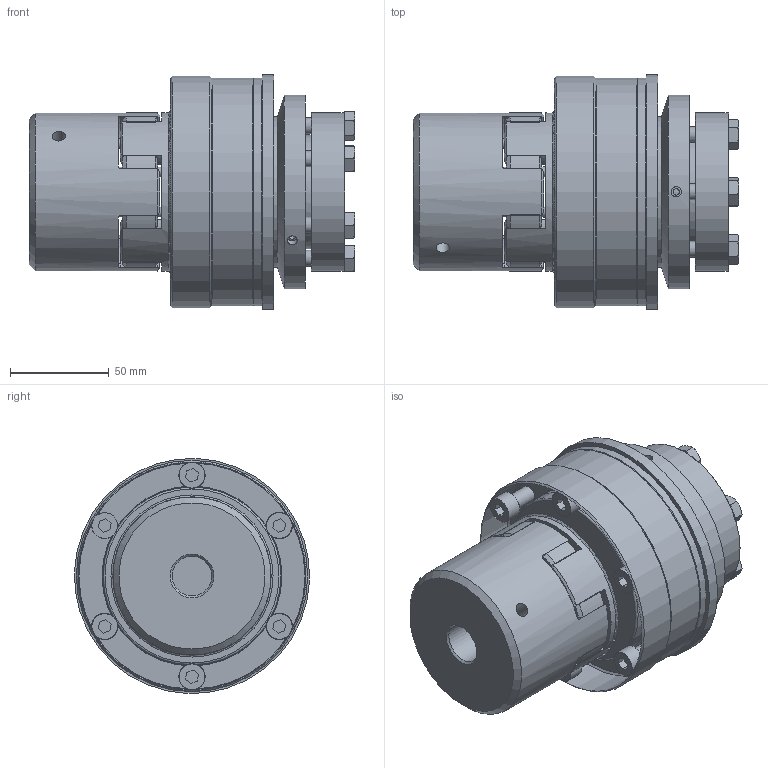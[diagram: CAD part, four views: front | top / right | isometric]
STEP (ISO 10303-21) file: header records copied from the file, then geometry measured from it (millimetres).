
FILE_DESCRIPTION( ( 'Unknown' ), '1' );
FILE_NAME( 'C:/Users/skarpstein/Desktop/Korrigierte 3D Modelle/KBK-E-PA/KBK EPA-38.stp', 'Unknown', ( 'Unknown' ), ( 'Unknown' ), 'PSStep 16.0.42', 'Unknown', ' ' );
FILE_SCHEMA( ( 'AUTOMOTIVE_DESIGN { 1 0 10303 214 1 1 1 1 }' ) );
Length unit declared in the file: millimetre
Products named in the file (30): Zylinderschraube DIN 912_2; ball_bearing_-_6011_0_02; ball_bearing_-_6011_0_03; ball_bearing_-_6011_0_01; Assem2_1; din_en_24017_m8x30; KBK L-A-300 Grundkörper; Druckring 300; Flansch 300; Druckring L-A-300; Elastomerflansch 38; Zahnkranz_38_Standard; Assem3_0; a_55; Stellring 300; Assem1; KBE 1 - 38_Nabe
Assembly tree (39 placements, depth 4):
  Assem1
    KBE 1 - 38_Nabe
    KBK L-A-300 Grundkörper
      KBK L-A-300 Grundkörper
    Druckring L-A-300
      Druckring L-A-300
    Flansch 300
      Flansch 300
    Stellring 300
      Stellring 300
    Druckring 300
      Druckring 300
    a_55
      a_55
    din_en_24017_m8x30  x6
      din_en_24017_m8x30
    Elastomerflansch 38
      Elastomerflansch 38
    Zahnkranz_38_Standard
      Zahnkranz_38_Standard
    Assem3_0
      ball_bearing_-_6011_0_01
        ball_bearing_-_6011_0_01
      ball_bearing_-_6011_0_02
        ball_bearing_-_6011_0_02
      ball_bearing_-_6011_0_03
        ball_bearing_-_6011_0_03
    Assem2_1  x6
      Zylinderschraube DIN 912_2
        Zylinderschraube DIN 912_2
Bounding box: 164.7 x 118.89 x 118.89 mm (x, y, z)
Volume: 934366.8 mm3; surface area: 243273.4 mm2
Topology: 24 solids, 24 shells, 576 faces, 1278 edges, 807 vertices
Faces by surface type: plane 211, cone 168, cylinder 167, torus 30
Full cylindrical faces by diameter (mm): 2.5 x2, 3.242 x3, 5 x8, 5.2 x3, 6.647 x12, 6.8 x1, 8 x12, 8.2 x6, 8.5 x6, 11.63 x6, 13 x6, 13.2 x6, 20 x1, 25 x1, 38 x2, 40 x1, 52 x1, 55 x3, 57.995 x1, 66.3 x2, 76 x2, 79.1 x2, 80 x3, 83.5 x1, 88 x1, 90 x3, 98 x1, 98.5 x1, 115 x2, 117 x1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
Entity records: 15124 total; most frequent: CARTESIAN_POINT 2752, DIRECTION 1990, ORIENTED_EDGE 1508, AXIS2_PLACEMENT_3D 928, EDGE_CURVE 754, EDGE_LOOP 612, VERTEX_POINT 540, FACE_OUTER_BOUND 493
